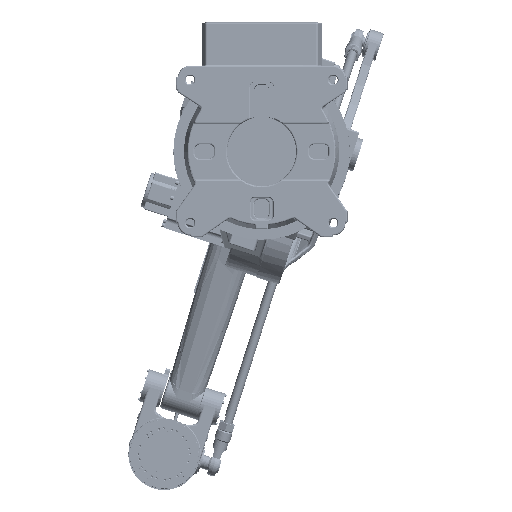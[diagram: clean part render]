
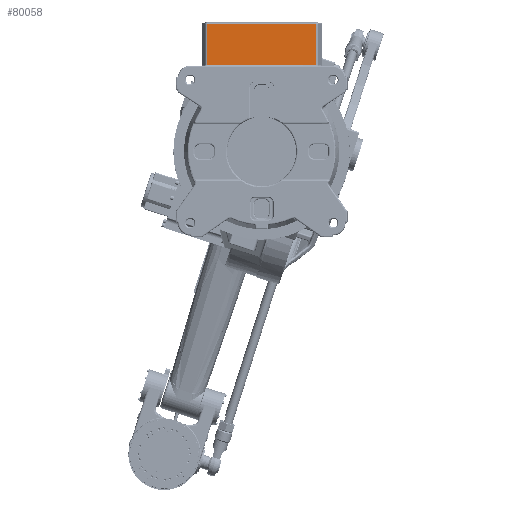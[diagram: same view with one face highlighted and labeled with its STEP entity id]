
A CAD part, front view. The second image highlights one B-rep face of the part: STEP entity #80058.
In plain terms, the highlighted planar face has unit normal (0, -1, 0).
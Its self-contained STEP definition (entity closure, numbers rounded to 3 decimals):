
#18474 = VECTOR ( 'NONE', #100406, 1000. ) ;
#18838 = FACE_OUTER_BOUND ( 'NONE', #22174, .T. ) ;
#20191 = LINE ( 'NONE', #146606, #179294 ) ;
#22174 = EDGE_LOOP ( 'NONE', ( #142114, #119045, #166805, #72014 ) ) ;
#28646 = PLANE ( 'NONE',  #56527 ) ;
#39536 = EDGE_CURVE ( 'NONE', #90058, #68146, #126620, .T. ) ;
#46699 = CARTESIAN_POINT ( 'NONE',  ( -114.157, -135.7, 268. ) ) ;
#56527 = AXIS2_PLACEMENT_3D ( 'NONE', #162961, #182196, #67258 ) ;
#59941 = CARTESIAN_POINT ( 'NONE',  ( 114.157, -135.7, 101.237 ) ) ;
#67258 = DIRECTION ( 'NONE',  ( 0., 0., -1. ) ) ;
#68146 = VERTEX_POINT ( 'NONE', #46699 ) ;
#72014 = ORIENTED_EDGE ( 'NONE', *, *, #39536, .T. ) ;
#80058 = ADVANCED_FACE ( 'NONE', ( #18838 ), #28646, .T. ) ;
#90058 = VERTEX_POINT ( 'NONE', #224068 ) ;
#100406 = DIRECTION ( 'NONE',  ( -1., 0., 0. ) ) ;
#104936 = CARTESIAN_POINT ( 'NONE',  ( -114.157, -135.7, 181. ) ) ;
#108943 = VERTEX_POINT ( 'NONE', #104936 ) ;
#119045 = ORIENTED_EDGE ( 'NONE', *, *, #213394, .T. ) ;
#119745 = CARTESIAN_POINT ( 'NONE',  ( 0., -135.7, 268. ) ) ;
#124403 = VECTOR ( 'NONE', #189685, 1000. ) ;
#126620 = LINE ( 'NONE', #119745, #18474 ) ;
#129364 = EDGE_CURVE ( 'NONE', #108943, #68146, #20191, .T. ) ;
#136645 = LINE ( 'NONE', #59941, #238773 ) ;
#140833 = VERTEX_POINT ( 'NONE', #213547 ) ;
#142114 = ORIENTED_EDGE ( 'NONE', *, *, #129364, .F. ) ;
#146606 = CARTESIAN_POINT ( 'NONE',  ( -114.157, -135.7, 101.237 ) ) ;
#162961 = CARTESIAN_POINT ( 'NONE',  ( 0., -135.7, 0. ) ) ;
#166805 = ORIENTED_EDGE ( 'NONE', *, *, #184483, .F. ) ;
#171196 = CARTESIAN_POINT ( 'NONE',  ( 0., -135.7, 181. ) ) ;
#179294 = VECTOR ( 'NONE', #242301, 1000. ) ;
#182196 = DIRECTION ( 'NONE',  ( 0., -1., 0. ) ) ;
#184483 = EDGE_CURVE ( 'NONE', #90058, #140833, #136645, .T. ) ;
#189685 = DIRECTION ( 'NONE',  ( 1., 0., 0. ) ) ;
#194250 = DIRECTION ( 'NONE',  ( 0., 0., -1. ) ) ;
#213394 = EDGE_CURVE ( 'NONE', #108943, #140833, #226544, .T. ) ;
#213547 = CARTESIAN_POINT ( 'NONE',  ( 114.157, -135.7, 181. ) ) ;
#224068 = CARTESIAN_POINT ( 'NONE',  ( 114.157, -135.7, 268. ) ) ;
#226544 = LINE ( 'NONE', #171196, #124403 ) ;
#238773 = VECTOR ( 'NONE', #194250, 1000. ) ;
#242301 = DIRECTION ( 'NONE',  ( 0., 0., 1. ) ) ;
